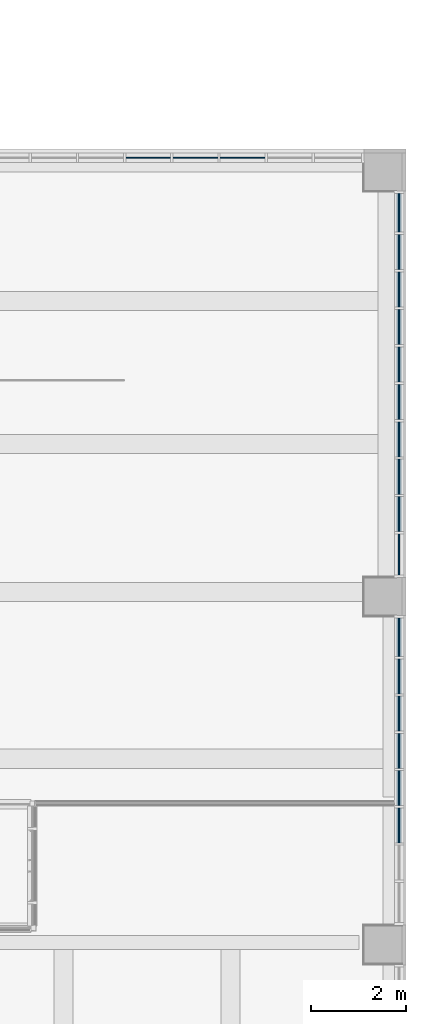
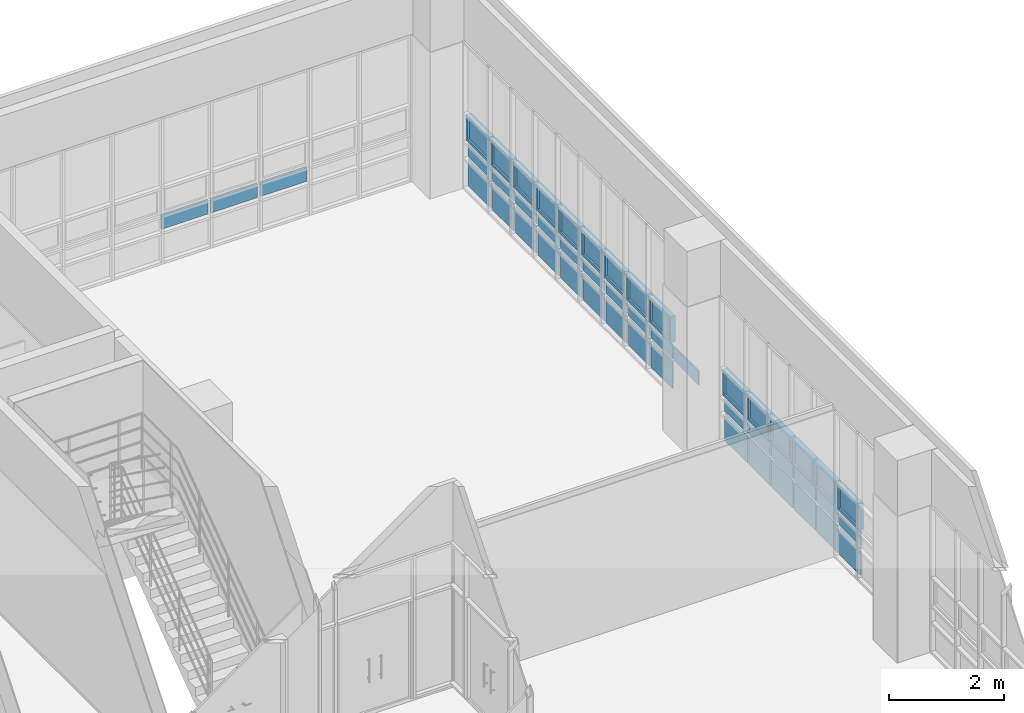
# One storey, part 44 of 74: 49 plates, 3 elements without a shape of their own.
"""IFC2X3 building model written with IfcOpenShell, lengths in millimetres."""

from ifc_helpers import new_model, entity, si_unit, converted_unit, derived_unit, direction, frame, origin, origin_2d_with_axis, place, context, subcontext, project, spatial, polyline, rectangle, outline, extrude, source, transform, mapped, material, material_list, type_object, type_shapes, element, aggregate, save


model = new_model("IFC2X3")

# Units and contexts
model_context = context("Model", 3, precision=0.01, world=origin(), true_north=direction((6.123031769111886e-17, 1.0)))
body_context = subcontext(model_context, "Body", "Model", "MODEL_VIEW")
ifc_project = project(units=[si_unit("LENGTHUNIT", "METRE", prefix="MILLI"), si_unit("AREAUNIT", "SQUARE_METRE"), si_unit("VOLUMEUNIT", "CUBIC_METRE"), converted_unit("PLANEANGLEUNIT", "DEGREE", entity("IfcRatioMeasure", 0.017453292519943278), si_unit("PLANEANGLEUNIT", "RADIAN"), dimensions=[0, 0, 0, 0, 0, 0, 0]), si_unit("MASSUNIT", "GRAM", prefix="KILO"), derived_unit("MASSDENSITYUNIT", [(si_unit("MASSUNIT", "GRAM", prefix="KILO"), 1), (si_unit("LENGTHUNIT", "METRE"), -3)]), derived_unit("MOMENTOFINERTIAUNIT", [(si_unit("LENGTHUNIT", "METRE"), 4)]), si_unit("TIMEUNIT", "SECOND"), si_unit("FREQUENCYUNIT", "HERTZ"), si_unit("THERMODYNAMICTEMPERATUREUNIT", "DEGREE_CELSIUS"), derived_unit("THERMALTRANSMITTANCEUNIT", [(si_unit("MASSUNIT", "GRAM", prefix="KILO"), 1), (si_unit("THERMODYNAMICTEMPERATUREUNIT", "KELVIN"), -1), (si_unit("TIMEUNIT", "SECOND"), -3)]), derived_unit("VOLUMETRICFLOWRATEUNIT", [(si_unit("LENGTHUNIT", "METRE"), 3), (si_unit("TIMEUNIT", "SECOND"), -1)]), derived_unit("MASSFLOWRATEUNIT", [(si_unit("MASSUNIT", "GRAM", prefix="KILO"), 1), (si_unit("TIMEUNIT", "SECOND"), -1)]), derived_unit("ROTATIONALFREQUENCYUNIT", [(si_unit("TIMEUNIT", "SECOND"), -1)]), si_unit("ELECTRICCURRENTUNIT", "AMPERE"), si_unit("ELECTRICVOLTAGEUNIT", "VOLT"), si_unit("POWERUNIT", "WATT"), si_unit("FORCEUNIT", "NEWTON", prefix="KILO"), si_unit("ILLUMINANCEUNIT", "LUX"), si_unit("LUMINOUSFLUXUNIT", "LUMEN"), si_unit("LUMINOUSINTENSITYUNIT", "CANDELA"), derived_unit("USERDEFINED", [(si_unit("MASSUNIT", "GRAM", prefix="KILO"), -1), (si_unit("LENGTHUNIT", "METRE"), -2), (si_unit("TIMEUNIT", "SECOND"), 3), (si_unit("LUMINOUSFLUXUNIT", "LUMEN"), 1)]), derived_unit("SOUNDPOWERUNIT", [(si_unit("MASSUNIT", "GRAM", prefix="KILO"), 1), (si_unit("LENGTHUNIT", "METRE"), 2), (si_unit("TIMEUNIT", "SECOND"), -3)]), derived_unit("SOUNDPRESSUREUNIT", [(si_unit("MASSUNIT", "GRAM", prefix="KILO"), 1), (si_unit("LENGTHUNIT", "METRE"), -1), (si_unit("TIMEUNIT", "SECOND"), -2)]), derived_unit("LINEARVELOCITYUNIT", [(si_unit("LENGTHUNIT", "METRE"), 1), (si_unit("TIMEUNIT", "SECOND"), -1)]), si_unit("PRESSUREUNIT", "PASCAL"), derived_unit("USERDEFINED", [(si_unit("LENGTHUNIT", "METRE"), -2), (si_unit("MASSUNIT", "GRAM", prefix="KILO"), 1), (si_unit("TIMEUNIT", "SECOND"), -2)]), derived_unit("LINEARFORCEUNIT", [(si_unit("MASSUNIT", "GRAM", prefix="KILO"), 1), (si_unit("LENGTHUNIT", "METRE"), 1), (si_unit("TIMEUNIT", "SECOND"), -2), (si_unit("LENGTHUNIT", "METRE"), -1)]), derived_unit("PLANARFORCEUNIT", [(si_unit("MASSUNIT", "GRAM", prefix="KILO"), 1), (si_unit("LENGTHUNIT", "METRE"), 1), (si_unit("TIMEUNIT", "SECOND"), -2), (si_unit("LENGTHUNIT", "METRE"), -2)])], contexts=[model_context])

# Site, building, storey
site_placement = place(None, frame((-14167.972527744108, -657.2125860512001, 0.0)))
site = spatial("IfcSite", under=ifc_project, at=site_placement, Name="Default", CompositionType="ELEMENT")
building_placement = place(site_placement, origin())
building = spatial("IfcBuilding", under=site, at=building_placement, Name="Sample Building", CompositionType="ELEMENT")
storey_placement = place(building_placement, frame((0.0, 0.0, 4800.0)))
storey = spatial("IfcBuildingStorey", under=building, at=storey_placement, Name="지상 2층", CompositionType="ELEMENT", Elevation=4800.000000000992)

# Curtain wall, plates
curtain_wall_type = type_object("IfcCurtainWallType", Name="커튼월:CW112-스테인리스 스틸 커튼월", PredefinedType="NOTDEFINED")
curtain_wall_1_placement = place(storey_placement, frame((0.0, 0.0, -4800.0)))
curtain_wall_1 = element("IfcCurtainWall", 1, at=curtain_wall_1_placement, inside=storey, type_object=curtain_wall_type, Name="커튼월:CW112-스테인리스 스틸 커튼월", ObjectType="커튼월:CW112-스테인리스 스틸 커튼월")
ifc_material_1 = material(Name="KBIMS-로이유리(코팅)")
plate_type_1 = type_object("IfcPlateType", Name="CW300-THK24.Low-e coating glass:CW300-THK24.Low-e coating glass", PredefinedType="CURTAIN_PANEL", material=ifc_material_1)
shared_shape_1 = source(origin(), body_context, "Body", "SweptSolid", [
    extrude(rectangle(XDim=806.2500327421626, YDim=24.000000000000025, at=origin_2d_with_axis()), frame((0.0, 0.0, 0.0), z_axis=(0.0, 0.0, 1.0), x_axis=(-1.0, 0.0, 0.0)), (0.0, 0.0, 1.0), 575.0000000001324),
])
type_shapes(plate_type_1, [shared_shape_1])
plate_1_placement = place(curtain_wall_1_placement, frame((51405.463828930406, 19104.08729161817, 4930.0), z_axis=(0.0, 0.0, 1.0), x_axis=(0.0, 1.0, 0.0)))
plate_1 = element("IfcPlate", 2, at=plate_1_placement, type_object=plate_type_1, material=ifc_material_1, Name="CW300-THK24.Low-e coating glass:CW300-THK24.Low-e coating glass", ObjectType="CW300-THK24.Low-e coating glass:CW300-THK24.Low-e coating glass", context=body_context, shape_type="MappedRepresentation", body=[
    mapped(shared_shape_1, transform((0.0, 0.0, 0.0), scale=1.0)),
])
plate_type_2 = type_object("IfcPlateType", Name="CW300-THK24.Low-e coating glass:CW300-THK24.Low-e coating glass", PredefinedType="CURTAIN_PANEL", material=ifc_material_1)
shared_shape_2 = source(origin(), body_context, "Body", "SweptSolid", [
    extrude(rectangle(XDim=731.2499999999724, YDim=24.000000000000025, at=origin_2d_with_axis()), frame((0.0, 0.0, 0.0), z_axis=(0.0, 0.0, 1.0), x_axis=(-1.0, 0.0, 0.0)), (0.0, 0.0, 1.0), 575.0000000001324),
])
type_shapes(plate_type_2, [shared_shape_2])
plate_2_placement = place(curtain_wall_1_placement, frame((51405.4638289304, 15160.337275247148, 4930.0), z_axis=(0.0, 0.0, 1.0), x_axis=(0.0, 1.0, 0.0)))
plate_2 = element("IfcPlate", 3, at=plate_2_placement, type_object=plate_type_2, material=ifc_material_1, Name="CW300-THK24.Low-e coating glass:CW300-THK24.Low-e coating glass", ObjectType="CW300-THK24.Low-e coating glass:CW300-THK24.Low-e coating glass", context=body_context, shape_type="MappedRepresentation", body=[
    mapped(shared_shape_2, transform((0.0, 0.0, 0.0), scale=1.0)),
])
plate_3_placement = place(curtain_wall_1_placement, frame((51405.4638289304, 15941.587275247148, 4930.0), z_axis=(0.0, 0.0, 1.0), x_axis=(0.0, 1.0, 0.0)))
plate_3 = element("IfcPlate", 4, at=plate_3_placement, type_object=plate_type_2, material=ifc_material_1, Name="CW300-THK24.Low-e coating glass:CW300-THK24.Low-e coating glass", ObjectType="CW300-THK24.Low-e coating glass:CW300-THK24.Low-e coating glass", context=body_context, shape_type="MappedRepresentation", body=[
    mapped(shared_shape_2, transform((0.0, 0.0, 0.0), scale=1.0)),
])
plate_4_placement = place(curtain_wall_1_placement, frame((51405.4638289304, 16722.837275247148, 4930.0), z_axis=(0.0, 0.0, 1.0), x_axis=(0.0, 1.0, 0.0)))
plate_4 = element("IfcPlate", 5, at=plate_4_placement, type_object=plate_type_2, material=ifc_material_1, Name="CW300-THK24.Low-e coating glass:CW300-THK24.Low-e coating glass", ObjectType="CW300-THK24.Low-e coating glass:CW300-THK24.Low-e coating glass", context=body_context, shape_type="MappedRepresentation", body=[
    mapped(shared_shape_2, transform((0.0, 0.0, 0.0), scale=1.0)),
])
plate_5_placement = place(curtain_wall_1_placement, frame((51405.4638289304, 17504.087275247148, 4930.0), z_axis=(0.0, 0.0, 1.0), x_axis=(0.0, 1.0, 0.0)))
plate_5 = element("IfcPlate", 6, at=plate_5_placement, type_object=plate_type_2, material=ifc_material_1, Name="CW300-THK24.Low-e coating glass:CW300-THK24.Low-e coating glass", ObjectType="CW300-THK24.Low-e coating glass:CW300-THK24.Low-e coating glass", context=body_context, shape_type="MappedRepresentation", body=[
    mapped(shared_shape_2, transform((0.0, 0.0, 0.0), scale=1.0)),
])
plate_6_placement = place(curtain_wall_1_placement, frame((51405.463828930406, 18285.337275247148, 4930.0), z_axis=(0.0, 0.0, 1.0), x_axis=(0.0, 1.0, 0.0)))
plate_6 = element("IfcPlate", 7, at=plate_6_placement, type_object=plate_type_2, material=ifc_material_1, Name="CW300-THK24.Low-e coating glass:CW300-THK24.Low-e coating glass", ObjectType="CW300-THK24.Low-e coating glass:CW300-THK24.Low-e coating glass", context=body_context, shape_type="MappedRepresentation", body=[
    mapped(shared_shape_2, transform((0.0, 0.0, 0.0), scale=1.0)),
])
plate_type_3 = type_object("IfcPlateType", Name="CW300-THK24.Low-e coating glass:CW300-THK24.Low-e coating glass", PredefinedType="CURTAIN_PANEL", material=ifc_material_1)
shared_shape_3 = source(origin(), body_context, "Body", "SweptSolid", [
    extrude(rectangle(XDim=806.2500327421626, YDim=24.000000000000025, at=origin_2d_with_axis()), frame((0.0, 0.0, 0.0), z_axis=(0.0, 0.0, 1.0), x_axis=(-1.0, 0.0, 0.0)), (0.0, 0.0, 1.0), 300.0),
])
type_shapes(plate_type_3, [shared_shape_3])
plate_7_placement = place(curtain_wall_1_placement, frame((51405.463828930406, 19104.08729161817, 5555.0), z_axis=(0.0, 0.0, 1.0), x_axis=(0.0, 1.0, 0.0)))
plate_7 = element("IfcPlate", 8, at=plate_7_placement, type_object=plate_type_3, material=ifc_material_1, Name="CW300-THK24.Low-e coating glass:CW300-THK24.Low-e coating glass", ObjectType="CW300-THK24.Low-e coating glass:CW300-THK24.Low-e coating glass", context=body_context, shape_type="MappedRepresentation", body=[
    mapped(shared_shape_3, transform((0.0, 0.0, 0.0), scale=1.0)),
])
plate_type_4 = type_object("IfcPlateType", Name="CW300-THK24.Low-e coating glass:CW300-THK24.Low-e coating glass", PredefinedType="CURTAIN_PANEL", material=ifc_material_1)
shared_shape_4 = source(origin(), body_context, "Body", "SweptSolid", [
    extrude(rectangle(XDim=731.2499999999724, YDim=24.000000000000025, at=origin_2d_with_axis()), frame((0.0, 0.0, 0.0), z_axis=(0.0, 0.0, 1.0), x_axis=(-1.0, 0.0, 0.0)), (0.0, 0.0, 1.0), 300.0),
])
type_shapes(plate_type_4, [shared_shape_4])
plate_8_placement = place(curtain_wall_1_placement, frame((51405.4638289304, 15160.337275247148, 5555.0), z_axis=(0.0, 0.0, 1.0), x_axis=(0.0, 1.0, 0.0)))
plate_8 = element("IfcPlate", 9, at=plate_8_placement, type_object=plate_type_4, material=ifc_material_1, Name="CW300-THK24.Low-e coating glass:CW300-THK24.Low-e coating glass", ObjectType="CW300-THK24.Low-e coating glass:CW300-THK24.Low-e coating glass", context=body_context, shape_type="MappedRepresentation", body=[
    mapped(shared_shape_4, transform((0.0, 0.0, 0.0), scale=1.0)),
])
plate_9_placement = place(curtain_wall_1_placement, frame((51405.4638289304, 15941.587275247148, 5555.0), z_axis=(0.0, 0.0, 1.0), x_axis=(0.0, 1.0, 0.0)))
plate_9 = element("IfcPlate", 10, at=plate_9_placement, type_object=plate_type_4, material=ifc_material_1, Name="CW300-THK24.Low-e coating glass:CW300-THK24.Low-e coating glass", ObjectType="CW300-THK24.Low-e coating glass:CW300-THK24.Low-e coating glass", context=body_context, shape_type="MappedRepresentation", body=[
    mapped(shared_shape_4, transform((0.0, 0.0, 0.0), scale=1.0)),
])
plate_10_placement = place(curtain_wall_1_placement, frame((51405.4638289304, 16722.837275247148, 5555.0), z_axis=(0.0, 0.0, 1.0), x_axis=(0.0, 1.0, 0.0)))
plate_10 = element("IfcPlate", 11, at=plate_10_placement, type_object=plate_type_4, material=ifc_material_1, Name="CW300-THK24.Low-e coating glass:CW300-THK24.Low-e coating glass", ObjectType="CW300-THK24.Low-e coating glass:CW300-THK24.Low-e coating glass", context=body_context, shape_type="MappedRepresentation", body=[
    mapped(shared_shape_4, transform((0.0, 0.0, 0.0), scale=1.0)),
])
plate_11_placement = place(curtain_wall_1_placement, frame((51405.4638289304, 17504.087275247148, 5555.0), z_axis=(0.0, 0.0, 1.0), x_axis=(0.0, 1.0, 0.0)))
plate_11 = element("IfcPlate", 12, at=plate_11_placement, type_object=plate_type_4, material=ifc_material_1, Name="CW300-THK24.Low-e coating glass:CW300-THK24.Low-e coating glass", ObjectType="CW300-THK24.Low-e coating glass:CW300-THK24.Low-e coating glass", context=body_context, shape_type="MappedRepresentation", body=[
    mapped(shared_shape_4, transform((0.0, 0.0, 0.0), scale=1.0)),
])
plate_12_placement = place(curtain_wall_1_placement, frame((51405.463828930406, 18285.337275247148, 5555.0), z_axis=(0.0, 0.0, 1.0), x_axis=(0.0, 1.0, 0.0)))
plate_12 = element("IfcPlate", 13, at=plate_12_placement, type_object=plate_type_4, material=ifc_material_1, Name="CW300-THK24.Low-e coating glass:CW300-THK24.Low-e coating glass", ObjectType="CW300-THK24.Low-e coating glass:CW300-THK24.Low-e coating glass", context=body_context, shape_type="MappedRepresentation", body=[
    mapped(shared_shape_4, transform((0.0, 0.0, 0.0), scale=1.0)),
])
ifc_material_2 = material(Name="KBIMS-유리")
ifc_material_3 = material(Name="KBIMS-알루미늄")
ifc_material_list_1 = material_list([ifc_material_2, ifc_material_3])
ifc_material_list_2 = material_list([ifc_material_2, ifc_material_3])
plate_type_5 = type_object("IfcPlateType", Name="CW410-프로젝트 창:CW410-프로젝트 창 (하부개폐)", PredefinedType="CURTAIN_PANEL", material=ifc_material_list_2)
shared_shape_5 = source(origin(), body_context, "Body", "SweptSolid", [
    extrude(rectangle(XDim=706.2500327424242, YDim=23.999999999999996, at=origin_2d_with_axis()), frame((0.0, -0.04999999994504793, 50.0), z_axis=(0.0, 0.0, 1.0), x_axis=(-1.0, 0.0, 0.0)), (0.0, 0.0, 1.0), 450.0000000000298),
    extrude(outline(polyline([(-403.1250163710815, -275.0), (403.1250163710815, -275.0), (403.1250163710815, 275.0), (-403.1250163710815, 275.0), (-403.1250163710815, -275.0)]), holes=[polyline([(-353.1250163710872, -225.0), (-353.1250163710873, 225.0), (353.1250163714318, 225.0), (353.1250163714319, -225.0), (-353.1250163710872, -225.0)])]), frame((0.0, -50.04999999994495, 275.0), z_axis=(0.0, 1.0, 0.0), x_axis=(1.0, 0.0, 0.0)), (0.0, 0.0, 1.0), 99.99999999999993),
])
type_shapes(plate_type_5, [shared_shape_5])
plate_13_placement = place(curtain_wall_1_placement, frame((51405.463828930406, 19104.08729161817, 5905.0), z_axis=(0.0, 0.0, 1.0), x_axis=(0.0, 1.0, 0.0)))
plate_13 = element("IfcPlate", 14, at=plate_13_placement, type_object=plate_type_5, material=ifc_material_list_1, Name="CW410-프로젝트 창:CW410-프로젝트 창 (하부개폐)", ObjectType="CW410-프로젝트 창:CW410-프로젝트 창 (하부개폐)", context=body_context, shape_type="MappedRepresentation", body=[
    mapped(shared_shape_5, transform((0.0, 0.0, 0.0), scale=1.0)),
])
ifc_material_list_3 = material_list([ifc_material_2, ifc_material_3])
ifc_material_list_4 = material_list([ifc_material_2, ifc_material_3])
plate_type_6 = type_object("IfcPlateType", Name="CW410-프로젝트 창:CW410-프로젝트 창 (하부개폐)", PredefinedType="CURTAIN_PANEL", material=ifc_material_list_4)
shared_shape_6 = source(origin(), body_context, "Body", "SweptSolid", [
    extrude(rectangle(XDim=631.250000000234, YDim=23.999999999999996, at=origin_2d_with_axis()), frame((0.0, -0.04999999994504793, 50.0), z_axis=(0.0, 0.0, 1.0), x_axis=(-1.0, 0.0, 0.0)), (0.0, 0.0, 1.0), 450.0000000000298),
    extrude(outline(polyline([(-365.6249999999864, -275.0), (365.6249999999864, -275.0), (365.6249999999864, 275.0), (-365.6249999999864, 275.0), (-365.6249999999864, -275.0)]), holes=[polyline([(-315.62499999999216, -225.0), (-315.6249999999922, 225.0), (315.6250000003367, 225.0), (315.62500000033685, -225.0), (-315.62499999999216, -225.0)])]), frame((0.0, -50.04999999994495, 275.0), z_axis=(0.0, 1.0, 0.0), x_axis=(1.0, 0.0, 0.0)), (0.0, 0.0, 1.0), 99.99999999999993),
])
type_shapes(plate_type_6, [shared_shape_6])
plate_14_placement = place(curtain_wall_1_placement, frame((51405.4638289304, 15160.337275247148, 5905.0), z_axis=(0.0, 0.0, 1.0), x_axis=(0.0, 1.0, 0.0)))
plate_14 = element("IfcPlate", 15, at=plate_14_placement, type_object=plate_type_6, material=ifc_material_list_3, Name="CW410-프로젝트 창:CW410-프로젝트 창 (하부개폐)", ObjectType="CW410-프로젝트 창:CW410-프로젝트 창 (하부개폐)", context=body_context, shape_type="MappedRepresentation", body=[
    mapped(shared_shape_6, transform((0.0, 0.0, 0.0), scale=1.0)),
])
ifc_material_list_5 = material_list([ifc_material_2, ifc_material_3])
plate_15_placement = place(curtain_wall_1_placement, frame((51405.4638289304, 15941.587275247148, 5905.0), z_axis=(0.0, 0.0, 1.0), x_axis=(0.0, 1.0, 0.0)))
plate_15 = element("IfcPlate", 16, at=plate_15_placement, type_object=plate_type_6, material=ifc_material_list_5, Name="CW410-프로젝트 창:CW410-프로젝트 창 (하부개폐)", ObjectType="CW410-프로젝트 창:CW410-프로젝트 창 (하부개폐)", context=body_context, shape_type="MappedRepresentation", body=[
    mapped(shared_shape_6, transform((0.0, 0.0, 0.0), scale=1.0)),
])
ifc_material_list_6 = material_list([ifc_material_2, ifc_material_3])
plate_16_placement = place(curtain_wall_1_placement, frame((51405.4638289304, 16722.837275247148, 5905.0), z_axis=(0.0, 0.0, 1.0), x_axis=(0.0, 1.0, 0.0)))
plate_16 = element("IfcPlate", 17, at=plate_16_placement, type_object=plate_type_6, material=ifc_material_list_6, Name="CW410-프로젝트 창:CW410-프로젝트 창 (하부개폐)", ObjectType="CW410-프로젝트 창:CW410-프로젝트 창 (하부개폐)", context=body_context, shape_type="MappedRepresentation", body=[
    mapped(shared_shape_6, transform((0.0, 0.0, 0.0), scale=1.0)),
])
ifc_material_list_7 = material_list([ifc_material_2, ifc_material_3])
plate_17_placement = place(curtain_wall_1_placement, frame((51405.4638289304, 17504.087275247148, 5905.0), z_axis=(0.0, 0.0, 1.0), x_axis=(0.0, 1.0, 0.0)))
plate_17 = element("IfcPlate", 18, at=plate_17_placement, type_object=plate_type_6, material=ifc_material_list_7, Name="CW410-프로젝트 창:CW410-프로젝트 창 (하부개폐)", ObjectType="CW410-프로젝트 창:CW410-프로젝트 창 (하부개폐)", context=body_context, shape_type="MappedRepresentation", body=[
    mapped(shared_shape_6, transform((0.0, 0.0, 0.0), scale=1.0)),
])
ifc_material_list_8 = material_list([ifc_material_2, ifc_material_3])
plate_18_placement = place(curtain_wall_1_placement, frame((51405.463828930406, 18285.337275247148, 5905.0), z_axis=(0.0, 0.0, 1.0), x_axis=(0.0, 1.0, 0.0)))
plate_18 = element("IfcPlate", 19, at=plate_18_placement, type_object=plate_type_6, material=ifc_material_list_8, Name="CW410-프로젝트 창:CW410-프로젝트 창 (하부개폐)", ObjectType="CW410-프로젝트 창:CW410-프로젝트 창 (하부개폐)", context=body_context, shape_type="MappedRepresentation", body=[
    mapped(shared_shape_6, transform((0.0, 0.0, 0.0), scale=1.0)),
])
aggregate(curtain_wall_1, [plate_2, plate_3, plate_4, plate_5, plate_6, plate_1, plate_8, plate_9, plate_10, plate_11, plate_12, plate_7, plate_14, plate_15, plate_16, plate_17, plate_18, plate_13])

curtain_wall_2_placement = place(storey_placement, frame((0.0, 0.0, -4800.0)))
curtain_wall_2 = element("IfcCurtainWall", 20, at=curtain_wall_2_placement, inside=storey, type_object=curtain_wall_type, Name="커튼월:CW112-스테인리스 스틸 커튼월", ObjectType="커튼월:CW112-스테인리스 스틸 커튼월")
plate_type_7 = type_object("IfcPlateType", Name="CW300-THK24.Low-e coating glass:CW300-THK24.Low-e coating glass", PredefinedType="CURTAIN_PANEL", material=ifc_material_1)
shared_shape_7 = source(origin(), body_context, "Body", "SweptSolid", [
    extrude(rectangle(XDim=735.0000000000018, YDim=24.000000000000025, at=origin_2d_with_axis()), frame((0.0, 0.0, 0.0), z_axis=(0.0, 0.0, 1.0), x_axis=(-1.0, 0.0, 0.0)), (0.0, 0.0, 1.0), 575.0000000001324),
])
type_shapes(plate_type_7, [shared_shape_7])
plate_19_placement = place(curtain_wall_2_placement, frame((51405.463828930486, 21684.712275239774, 4930.0), z_axis=(0.0, 0.0, 1.0), x_axis=(0.0, 1.0, 0.0)))
plate_19 = element("IfcPlate", 21, at=plate_19_placement, type_object=plate_type_7, material=ifc_material_1, Name="CW300-THK24.Low-e coating glass:CW300-THK24.Low-e coating glass", ObjectType="CW300-THK24.Low-e coating glass:CW300-THK24.Low-e coating glass", context=body_context, shape_type="MappedRepresentation", body=[
    mapped(shared_shape_7, transform((0.0, 0.0, 0.0), scale=1.0)),
])
plate_20_placement = place(curtain_wall_2_placement, frame((51405.463828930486, 22469.712275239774, 4930.0), z_axis=(0.0, 0.0, 1.0), x_axis=(0.0, 1.0, 0.0)))
plate_20 = element("IfcPlate", 22, at=plate_20_placement, type_object=plate_type_7, material=ifc_material_1, Name="CW300-THK24.Low-e coating glass:CW300-THK24.Low-e coating glass", ObjectType="CW300-THK24.Low-e coating glass:CW300-THK24.Low-e coating glass", context=body_context, shape_type="MappedRepresentation", body=[
    mapped(shared_shape_7, transform((0.0, 0.0, 0.0), scale=1.0)),
])
plate_21_placement = place(curtain_wall_2_placement, frame((51405.463828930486, 23254.712275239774, 4930.0), z_axis=(0.0, 0.0, 1.0), x_axis=(0.0, 1.0, 0.0)))
plate_21 = element("IfcPlate", 23, at=plate_21_placement, type_object=plate_type_7, material=ifc_material_1, Name="CW300-THK24.Low-e coating glass:CW300-THK24.Low-e coating glass", ObjectType="CW300-THK24.Low-e coating glass:CW300-THK24.Low-e coating glass", context=body_context, shape_type="MappedRepresentation", body=[
    mapped(shared_shape_7, transform((0.0, 0.0, 0.0), scale=1.0)),
])
plate_22_placement = place(curtain_wall_2_placement, frame((51405.463828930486, 24039.712275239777, 4930.0), z_axis=(0.0, 0.0, 1.0), x_axis=(0.0, 1.0, 0.0)))
plate_22 = element("IfcPlate", 24, at=plate_22_placement, type_object=plate_type_7, material=ifc_material_1, Name="CW300-THK24.Low-e coating glass:CW300-THK24.Low-e coating glass", ObjectType="CW300-THK24.Low-e coating glass:CW300-THK24.Low-e coating glass", context=body_context, shape_type="MappedRepresentation", body=[
    mapped(shared_shape_7, transform((0.0, 0.0, 0.0), scale=1.0)),
])
plate_23_placement = place(curtain_wall_2_placement, frame((51405.46382893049, 24824.71227523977, 4930.0), z_axis=(0.0, 0.0, 1.0), x_axis=(0.0, 1.0, 0.0)))
plate_23 = element("IfcPlate", 25, at=plate_23_placement, type_object=plate_type_7, material=ifc_material_1, Name="CW300-THK24.Low-e coating glass:CW300-THK24.Low-e coating glass", ObjectType="CW300-THK24.Low-e coating glass:CW300-THK24.Low-e coating glass", context=body_context, shape_type="MappedRepresentation", body=[
    mapped(shared_shape_7, transform((0.0, 0.0, 0.0), scale=1.0)),
])
plate_24_placement = place(curtain_wall_2_placement, frame((51405.46382893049, 25609.712275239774, 4930.0), z_axis=(0.0, 0.0, 1.0), x_axis=(0.0, 1.0, 0.0)))
plate_24 = element("IfcPlate", 26, at=plate_24_placement, type_object=plate_type_7, material=ifc_material_1, Name="CW300-THK24.Low-e coating glass:CW300-THK24.Low-e coating glass", ObjectType="CW300-THK24.Low-e coating glass:CW300-THK24.Low-e coating glass", context=body_context, shape_type="MappedRepresentation", body=[
    mapped(shared_shape_7, transform((0.0, 0.0, 0.0), scale=1.0)),
])
plate_25_placement = place(curtain_wall_2_placement, frame((51405.46382893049, 26394.71227523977, 4930.0), z_axis=(0.0, 0.0, 1.0), x_axis=(0.0, 1.0, 0.0)))
plate_25 = element("IfcPlate", 27, at=plate_25_placement, type_object=plate_type_7, material=ifc_material_1, Name="CW300-THK24.Low-e coating glass:CW300-THK24.Low-e coating glass", ObjectType="CW300-THK24.Low-e coating glass:CW300-THK24.Low-e coating glass", context=body_context, shape_type="MappedRepresentation", body=[
    mapped(shared_shape_7, transform((0.0, 0.0, 0.0), scale=1.0)),
])
plate_26_placement = place(curtain_wall_2_placement, frame((51405.46382893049, 27179.712275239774, 4930.0), z_axis=(0.0, 0.0, 1.0), x_axis=(0.0, 1.0, 0.0)))
plate_26 = element("IfcPlate", 28, at=plate_26_placement, type_object=plate_type_7, material=ifc_material_1, Name="CW300-THK24.Low-e coating glass:CW300-THK24.Low-e coating glass", ObjectType="CW300-THK24.Low-e coating glass:CW300-THK24.Low-e coating glass", context=body_context, shape_type="MappedRepresentation", body=[
    mapped(shared_shape_7, transform((0.0, 0.0, 0.0), scale=1.0)),
])
plate_type_8 = type_object("IfcPlateType", Name="CW300-THK24.Low-e coating glass:CW300-THK24.Low-e coating glass", PredefinedType="CURTAIN_PANEL", material=ifc_material_1)
shared_shape_8 = source(origin(), body_context, "Body", "SweptSolid", [
    extrude(rectangle(XDim=810.0004297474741, YDim=24.000000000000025, at=origin_2d_with_axis()), frame((0.0, 0.0, 0.0), z_axis=(0.0, 0.0, 1.0), x_axis=(-1.0, 0.0, 0.0)), (0.0, 0.0, 1.0), 575.0000000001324),
])
type_shapes(plate_type_8, [shared_shape_8])
plate_27_placement = place(curtain_wall_2_placement, frame((51405.46382893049, 28002.212490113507, 4930.0), z_axis=(0.0, 0.0, 1.0), x_axis=(0.0, 1.0, 0.0)))
plate_27 = element("IfcPlate", 29, at=plate_27_placement, type_object=plate_type_8, material=ifc_material_1, Name="CW300-THK24.Low-e coating glass:CW300-THK24.Low-e coating glass", ObjectType="CW300-THK24.Low-e coating glass:CW300-THK24.Low-e coating glass", context=body_context, shape_type="MappedRepresentation", body=[
    mapped(shared_shape_8, transform((0.0, 0.0, 0.0), scale=1.0)),
])
plate_type_9 = type_object("IfcPlateType", Name="CW300-THK24.Low-e coating glass:CW300-THK24.Low-e coating glass", PredefinedType="CURTAIN_PANEL", material=ifc_material_1)
shared_shape_9 = source(origin(), body_context, "Body", "SweptSolid", [
    extrude(rectangle(XDim=859.9999672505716, YDim=24.000000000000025, at=origin_2d_with_axis()), frame((0.0, 0.0, 0.0), z_axis=(0.0, 0.0, 1.0), x_axis=(-1.0, 0.0, 0.0)), (0.0, 0.0, 1.0), 300.0),
])
type_shapes(plate_type_9, [shared_shape_9])
plate_28_placement = place(curtain_wall_2_placement, frame((51405.463828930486, 20837.212291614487, 5555.0), z_axis=(0.0, 0.0, 1.0), x_axis=(0.0, 1.0, 0.0)))
plate_28 = element("IfcPlate", 30, at=plate_28_placement, type_object=plate_type_9, material=ifc_material_1, Name="CW300-THK24.Low-e coating glass:CW300-THK24.Low-e coating glass", ObjectType="CW300-THK24.Low-e coating glass:CW300-THK24.Low-e coating glass", context=body_context, shape_type="MappedRepresentation", body=[
    mapped(shared_shape_9, transform((0.0, 0.0, 0.0), scale=1.0)),
])
plate_type_10 = type_object("IfcPlateType", Name="CW300-THK24.Low-e coating glass:CW300-THK24.Low-e coating glass", PredefinedType="CURTAIN_PANEL", material=ifc_material_1)
shared_shape_10 = source(origin(), body_context, "Body", "SweptSolid", [
    extrude(rectangle(XDim=735.0000000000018, YDim=24.000000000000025, at=origin_2d_with_axis()), frame((0.0, 0.0, 0.0), z_axis=(0.0, 0.0, 1.0), x_axis=(-1.0, 0.0, 0.0)), (0.0, 0.0, 1.0), 300.0),
])
type_shapes(plate_type_10, [shared_shape_10])
plate_29_placement = place(curtain_wall_2_placement, frame((51405.463828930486, 21684.712275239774, 5555.0), z_axis=(0.0, 0.0, 1.0), x_axis=(0.0, 1.0, 0.0)))
plate_29 = element("IfcPlate", 31, at=plate_29_placement, type_object=plate_type_10, material=ifc_material_1, Name="CW300-THK24.Low-e coating glass:CW300-THK24.Low-e coating glass", ObjectType="CW300-THK24.Low-e coating glass:CW300-THK24.Low-e coating glass", context=body_context, shape_type="MappedRepresentation", body=[
    mapped(shared_shape_10, transform((0.0, 0.0, 0.0), scale=1.0)),
])
plate_30_placement = place(curtain_wall_2_placement, frame((51405.463828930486, 22469.712275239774, 5555.0), z_axis=(0.0, 0.0, 1.0), x_axis=(0.0, 1.0, 0.0)))
plate_30 = element("IfcPlate", 32, at=plate_30_placement, type_object=plate_type_10, material=ifc_material_1, Name="CW300-THK24.Low-e coating glass:CW300-THK24.Low-e coating glass", ObjectType="CW300-THK24.Low-e coating glass:CW300-THK24.Low-e coating glass", context=body_context, shape_type="MappedRepresentation", body=[
    mapped(shared_shape_10, transform((0.0, 0.0, 0.0), scale=1.0)),
])
plate_31_placement = place(curtain_wall_2_placement, frame((51405.463828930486, 23254.712275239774, 5555.0), z_axis=(0.0, 0.0, 1.0), x_axis=(0.0, 1.0, 0.0)))
plate_31 = element("IfcPlate", 33, at=plate_31_placement, type_object=plate_type_10, material=ifc_material_1, Name="CW300-THK24.Low-e coating glass:CW300-THK24.Low-e coating glass", ObjectType="CW300-THK24.Low-e coating glass:CW300-THK24.Low-e coating glass", context=body_context, shape_type="MappedRepresentation", body=[
    mapped(shared_shape_10, transform((0.0, 0.0, 0.0), scale=1.0)),
])
plate_32_placement = place(curtain_wall_2_placement, frame((51405.463828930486, 24039.712275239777, 5555.0), z_axis=(0.0, 0.0, 1.0), x_axis=(0.0, 1.0, 0.0)))
plate_32 = element("IfcPlate", 34, at=plate_32_placement, type_object=plate_type_10, material=ifc_material_1, Name="CW300-THK24.Low-e coating glass:CW300-THK24.Low-e coating glass", ObjectType="CW300-THK24.Low-e coating glass:CW300-THK24.Low-e coating glass", context=body_context, shape_type="MappedRepresentation", body=[
    mapped(shared_shape_10, transform((0.0, 0.0, 0.0), scale=1.0)),
])
plate_33_placement = place(curtain_wall_2_placement, frame((51405.46382893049, 24824.71227523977, 5555.0), z_axis=(0.0, 0.0, 1.0), x_axis=(0.0, 1.0, 0.0)))
plate_33 = element("IfcPlate", 35, at=plate_33_placement, type_object=plate_type_10, material=ifc_material_1, Name="CW300-THK24.Low-e coating glass:CW300-THK24.Low-e coating glass", ObjectType="CW300-THK24.Low-e coating glass:CW300-THK24.Low-e coating glass", context=body_context, shape_type="MappedRepresentation", body=[
    mapped(shared_shape_10, transform((0.0, 0.0, 0.0), scale=1.0)),
])
plate_34_placement = place(curtain_wall_2_placement, frame((51405.46382893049, 25609.712275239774, 5555.0), z_axis=(0.0, 0.0, 1.0), x_axis=(0.0, 1.0, 0.0)))
plate_34 = element("IfcPlate", 36, at=plate_34_placement, type_object=plate_type_10, material=ifc_material_1, Name="CW300-THK24.Low-e coating glass:CW300-THK24.Low-e coating glass", ObjectType="CW300-THK24.Low-e coating glass:CW300-THK24.Low-e coating glass", context=body_context, shape_type="MappedRepresentation", body=[
    mapped(shared_shape_10, transform((0.0, 0.0, 0.0), scale=1.0)),
])
plate_35_placement = place(curtain_wall_2_placement, frame((51405.46382893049, 26394.71227523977, 5555.0), z_axis=(0.0, 0.0, 1.0), x_axis=(0.0, 1.0, 0.0)))
plate_35 = element("IfcPlate", 37, at=plate_35_placement, type_object=plate_type_10, material=ifc_material_1, Name="CW300-THK24.Low-e coating glass:CW300-THK24.Low-e coating glass", ObjectType="CW300-THK24.Low-e coating glass:CW300-THK24.Low-e coating glass", context=body_context, shape_type="MappedRepresentation", body=[
    mapped(shared_shape_10, transform((0.0, 0.0, 0.0), scale=1.0)),
])
plate_36_placement = place(curtain_wall_2_placement, frame((51405.46382893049, 27179.712275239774, 5555.0), z_axis=(0.0, 0.0, 1.0), x_axis=(0.0, 1.0, 0.0)))
plate_36 = element("IfcPlate", 38, at=plate_36_placement, type_object=plate_type_10, material=ifc_material_1, Name="CW300-THK24.Low-e coating glass:CW300-THK24.Low-e coating glass", ObjectType="CW300-THK24.Low-e coating glass:CW300-THK24.Low-e coating glass", context=body_context, shape_type="MappedRepresentation", body=[
    mapped(shared_shape_10, transform((0.0, 0.0, 0.0), scale=1.0)),
])
plate_type_11 = type_object("IfcPlateType", Name="CW300-THK24.Low-e coating glass:CW300-THK24.Low-e coating glass", PredefinedType="CURTAIN_PANEL", material=ifc_material_1)
shared_shape_11 = source(origin(), body_context, "Body", "SweptSolid", [
    extrude(rectangle(XDim=810.0004297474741, YDim=24.000000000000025, at=origin_2d_with_axis()), frame((0.0, 0.0, 0.0), z_axis=(0.0, 0.0, 1.0), x_axis=(-1.0, 0.0, 0.0)), (0.0, 0.0, 1.0), 300.0),
])
type_shapes(plate_type_11, [shared_shape_11])
plate_37_placement = place(curtain_wall_2_placement, frame((51405.46382893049, 28002.212490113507, 5555.0), z_axis=(0.0, 0.0, 1.0), x_axis=(0.0, 1.0, 0.0)))
plate_37 = element("IfcPlate", 39, at=plate_37_placement, type_object=plate_type_11, material=ifc_material_1, Name="CW300-THK24.Low-e coating glass:CW300-THK24.Low-e coating glass", ObjectType="CW300-THK24.Low-e coating glass:CW300-THK24.Low-e coating glass", context=body_context, shape_type="MappedRepresentation", body=[
    mapped(shared_shape_11, transform((0.0, 0.0, 0.0), scale=1.0)),
])
ifc_material_list_9 = material_list([ifc_material_2, ifc_material_3])
ifc_material_list_10 = material_list([ifc_material_2, ifc_material_3])
plate_type_12 = type_object("IfcPlateType", Name="CW410-프로젝트 창:CW410-프로젝트 창 (하부개폐)", PredefinedType="CURTAIN_PANEL", material=ifc_material_list_10)
shared_shape_12 = source(origin(), body_context, "Body", "SweptSolid", [
    extrude(rectangle(XDim=635.0000000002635, YDim=23.999999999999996, at=origin_2d_with_axis()), frame((0.0, -0.04999999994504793, 50.0), z_axis=(0.0, 0.0, 1.0), x_axis=(-1.0, 0.0, 0.0)), (0.0, 0.0, 1.0), 450.00000000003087),
    extrude(outline(polyline([(-367.50000000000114, -275.0), (367.50000000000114, -275.0), (367.50000000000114, 275.0), (-367.50000000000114, 275.0), (-367.50000000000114, -275.0)]), holes=[polyline([(-317.5000000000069, -225.0), (-317.50000000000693, 225.0), (317.5000000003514, 225.0), (317.5000000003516, -225.0), (-317.5000000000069, -225.0)])]), frame((0.0, -50.04999999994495, 275.0), z_axis=(0.0, 1.0, 0.0), x_axis=(1.0, 0.0, 0.0)), (0.0, 0.0, 1.0), 99.99999999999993),
])
type_shapes(plate_type_12, [shared_shape_12])
plate_38_placement = place(curtain_wall_2_placement, frame((51405.463828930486, 21684.712275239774, 5905.0), z_axis=(0.0, 0.0, 1.0), x_axis=(0.0, 1.0, 0.0)))
plate_38 = element("IfcPlate", 40, at=plate_38_placement, type_object=plate_type_12, material=ifc_material_list_9, Name="CW410-프로젝트 창:CW410-프로젝트 창 (하부개폐)", ObjectType="CW410-프로젝트 창:CW410-프로젝트 창 (하부개폐)", context=body_context, shape_type="MappedRepresentation", body=[
    mapped(shared_shape_12, transform((0.0, 0.0, 0.0), scale=1.0)),
])
ifc_material_list_11 = material_list([ifc_material_2, ifc_material_3])
plate_39_placement = place(curtain_wall_2_placement, frame((51405.463828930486, 22469.712275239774, 5905.0), z_axis=(0.0, 0.0, 1.0), x_axis=(0.0, 1.0, 0.0)))
plate_39 = element("IfcPlate", 41, at=plate_39_placement, type_object=plate_type_12, material=ifc_material_list_11, Name="CW410-프로젝트 창:CW410-프로젝트 창 (하부개폐)", ObjectType="CW410-프로젝트 창:CW410-프로젝트 창 (하부개폐)", context=body_context, shape_type="MappedRepresentation", body=[
    mapped(shared_shape_12, transform((0.0, 0.0, 0.0), scale=1.0)),
])
ifc_material_list_12 = material_list([ifc_material_2, ifc_material_3])
plate_40_placement = place(curtain_wall_2_placement, frame((51405.463828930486, 23254.712275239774, 5905.0), z_axis=(0.0, 0.0, 1.0), x_axis=(0.0, 1.0, 0.0)))
plate_40 = element("IfcPlate", 42, at=plate_40_placement, type_object=plate_type_12, material=ifc_material_list_12, Name="CW410-프로젝트 창:CW410-프로젝트 창 (하부개폐)", ObjectType="CW410-프로젝트 창:CW410-프로젝트 창 (하부개폐)", context=body_context, shape_type="MappedRepresentation", body=[
    mapped(shared_shape_12, transform((0.0, 0.0, 0.0), scale=1.0)),
])
ifc_material_list_13 = material_list([ifc_material_2, ifc_material_3])
plate_41_placement = place(curtain_wall_2_placement, frame((51405.463828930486, 24039.712275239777, 5905.0), z_axis=(0.0, 0.0, 1.0), x_axis=(0.0, 1.0, 0.0)))
plate_41 = element("IfcPlate", 43, at=plate_41_placement, type_object=plate_type_12, material=ifc_material_list_13, Name="CW410-프로젝트 창:CW410-프로젝트 창 (하부개폐)", ObjectType="CW410-프로젝트 창:CW410-프로젝트 창 (하부개폐)", context=body_context, shape_type="MappedRepresentation", body=[
    mapped(shared_shape_12, transform((0.0, 0.0, 0.0), scale=1.0)),
])
ifc_material_list_14 = material_list([ifc_material_2, ifc_material_3])
plate_42_placement = place(curtain_wall_2_placement, frame((51405.46382893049, 24824.71227523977, 5905.0), z_axis=(0.0, 0.0, 1.0), x_axis=(0.0, 1.0, 0.0)))
plate_42 = element("IfcPlate", 44, at=plate_42_placement, type_object=plate_type_12, material=ifc_material_list_14, Name="CW410-프로젝트 창:CW410-프로젝트 창 (하부개폐)", ObjectType="CW410-프로젝트 창:CW410-프로젝트 창 (하부개폐)", context=body_context, shape_type="MappedRepresentation", body=[
    mapped(shared_shape_12, transform((0.0, 0.0, 0.0), scale=1.0)),
])
ifc_material_list_15 = material_list([ifc_material_2, ifc_material_3])
plate_43_placement = place(curtain_wall_2_placement, frame((51405.46382893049, 25609.712275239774, 5905.0), z_axis=(0.0, 0.0, 1.0), x_axis=(0.0, 1.0, 0.0)))
plate_43 = element("IfcPlate", 45, at=plate_43_placement, type_object=plate_type_12, material=ifc_material_list_15, Name="CW410-프로젝트 창:CW410-프로젝트 창 (하부개폐)", ObjectType="CW410-프로젝트 창:CW410-프로젝트 창 (하부개폐)", context=body_context, shape_type="MappedRepresentation", body=[
    mapped(shared_shape_12, transform((0.0, 0.0, 0.0), scale=1.0)),
])
ifc_material_list_16 = material_list([ifc_material_2, ifc_material_3])
plate_44_placement = place(curtain_wall_2_placement, frame((51405.46382893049, 26394.71227523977, 5905.0), z_axis=(0.0, 0.0, 1.0), x_axis=(0.0, 1.0, 0.0)))
plate_44 = element("IfcPlate", 46, at=plate_44_placement, type_object=plate_type_12, material=ifc_material_list_16, Name="CW410-프로젝트 창:CW410-프로젝트 창 (하부개폐)", ObjectType="CW410-프로젝트 창:CW410-프로젝트 창 (하부개폐)", context=body_context, shape_type="MappedRepresentation", body=[
    mapped(shared_shape_12, transform((0.0, 0.0, 0.0), scale=1.0)),
])
ifc_material_list_17 = material_list([ifc_material_2, ifc_material_3])
plate_45_placement = place(curtain_wall_2_placement, frame((51405.46382893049, 27179.712275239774, 5905.0), z_axis=(0.0, 0.0, 1.0), x_axis=(0.0, 1.0, 0.0)))
plate_45 = element("IfcPlate", 47, at=plate_45_placement, type_object=plate_type_12, material=ifc_material_list_17, Name="CW410-프로젝트 창:CW410-프로젝트 창 (하부개폐)", ObjectType="CW410-프로젝트 창:CW410-프로젝트 창 (하부개폐)", context=body_context, shape_type="MappedRepresentation", body=[
    mapped(shared_shape_12, transform((0.0, 0.0, 0.0), scale=1.0)),
])
ifc_material_list_18 = material_list([ifc_material_2, ifc_material_3])
ifc_material_list_19 = material_list([ifc_material_2, ifc_material_3])
plate_type_13 = type_object("IfcPlateType", Name="CW410-프로젝트 창:CW410-프로젝트 창 (하부개폐)", PredefinedType="CURTAIN_PANEL", material=ifc_material_list_19)
shared_shape_13 = source(origin(), body_context, "Body", "SweptSolid", [
    extrude(rectangle(XDim=710.0004297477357, YDim=23.999999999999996, at=origin_2d_with_axis()), frame((0.0, -0.04999999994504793, 50.0), z_axis=(0.0, 0.0, 1.0), x_axis=(-1.0, 0.0, 0.0)), (0.0, 0.0, 1.0), 450.00000000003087),
    extrude(outline(polyline([(-405.0002148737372, -275.0), (405.0002148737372, -275.0), (405.0002148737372, 275.0), (-405.0002148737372, 275.0), (-405.0002148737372, -275.0)]), holes=[polyline([(-355.00021487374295, -225.0), (-355.000214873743, 225.0), (355.00021487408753, 225.0), (355.00021487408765, -225.0), (-355.00021487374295, -225.0)])]), frame((0.0, -50.04999999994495, 275.0), z_axis=(0.0, 1.0, 0.0), x_axis=(1.0, 0.0, 0.0)), (0.0, 0.0, 1.0), 99.99999999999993),
])
type_shapes(plate_type_13, [shared_shape_13])
plate_46_placement = place(curtain_wall_2_placement, frame((51405.46382893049, 28002.212490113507, 5905.0), z_axis=(0.0, 0.0, 1.0), x_axis=(0.0, 1.0, 0.0)))
plate_46 = element("IfcPlate", 48, at=plate_46_placement, type_object=plate_type_13, material=ifc_material_list_18, Name="CW410-프로젝트 창:CW410-프로젝트 창 (하부개폐)", ObjectType="CW410-프로젝트 창:CW410-프로젝트 창 (하부개폐)", context=body_context, shape_type="MappedRepresentation", body=[
    mapped(shared_shape_13, transform((0.0, 0.0, 0.0), scale=1.0)),
])
aggregate(curtain_wall_2, [plate_19, plate_20, plate_21, plate_22, plate_23, plate_24, plate_25, plate_26, plate_27, plate_28, plate_29, plate_30, plate_31, plate_32, plate_33, plate_34, plate_35, plate_36, plate_37, plate_38, plate_39, plate_40, plate_41, plate_42, plate_43, plate_44, plate_45, plate_46])

curtain_wall_3_placement = place(storey_placement, frame((0.0, 0.0, -4800.0)))
curtain_wall_3 = element("IfcCurtainWall", 49, at=curtain_wall_3_placement, inside=storey, type_object=curtain_wall_type, Name="커튼월:CW112-스테인리스 스틸 커튼월", ObjectType="커튼월:CW112-스테인리스 스틸 커튼월")
plate_type_14 = type_object("IfcPlateType", Name="CW300-THK24.Low-e coating glass:CW300-THK24.Low-e coating glass", PredefinedType="CURTAIN_PANEL", material=ifc_material_1)
shared_shape_14 = source(origin(), body_context, "Body", "SweptSolid", [
    extrude(rectangle(XDim=938.8888888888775, YDim=24.000000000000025, at=origin_2d_with_axis()), frame((0.0, 0.0, 0.0), z_axis=(0.0, 0.0, 1.0), x_axis=(-1.0, 0.0, 0.0)), (0.0, 0.0, 1.0), 300.0),
])
type_shapes(plate_type_14, [shared_shape_14])
plate_47_placement = place(curtain_wall_3_placement, frame((48125.324436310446, 29157.21229514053, 5555.0), z_axis=(0.0, 0.0, 1.0), x_axis=(-1.0, 0.0, 0.0)))
plate_47 = element("IfcPlate", 50, at=plate_47_placement, type_object=plate_type_14, material=ifc_material_1, Name="CW300-THK24.Low-e coating glass:CW300-THK24.Low-e coating glass", ObjectType="CW300-THK24.Low-e coating glass:CW300-THK24.Low-e coating glass", context=body_context, shape_type="MappedRepresentation", body=[
    mapped(shared_shape_14, transform((0.0, 0.0, 0.0), scale=1.0)),
])
plate_48_placement = place(curtain_wall_3_placement, frame((47136.43554742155, 29157.21229514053, 5555.0), z_axis=(0.0, 0.0, 1.0), x_axis=(-1.0, 0.0, 0.0)))
plate_48 = element("IfcPlate", 51, at=plate_48_placement, type_object=plate_type_14, material=ifc_material_1, Name="CW300-THK24.Low-e coating glass:CW300-THK24.Low-e coating glass", ObjectType="CW300-THK24.Low-e coating glass:CW300-THK24.Low-e coating glass", context=body_context, shape_type="MappedRepresentation", body=[
    mapped(shared_shape_14, transform((0.0, 0.0, 0.0), scale=1.0)),
])
plate_49_placement = place(curtain_wall_3_placement, frame((46147.54665853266, 29157.212295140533, 5555.0), z_axis=(0.0, 0.0, 1.0), x_axis=(-1.0, 0.0, 0.0)))
plate_49 = element("IfcPlate", 52, at=plate_49_placement, type_object=plate_type_14, material=ifc_material_1, Name="CW300-THK24.Low-e coating glass:CW300-THK24.Low-e coating glass", ObjectType="CW300-THK24.Low-e coating glass:CW300-THK24.Low-e coating glass", context=body_context, shape_type="MappedRepresentation", body=[
    mapped(shared_shape_14, transform((0.0, 0.0, 0.0), scale=1.0)),
])
aggregate(curtain_wall_3, [plate_47, plate_48, plate_49])

save(model, "model.ifc")
